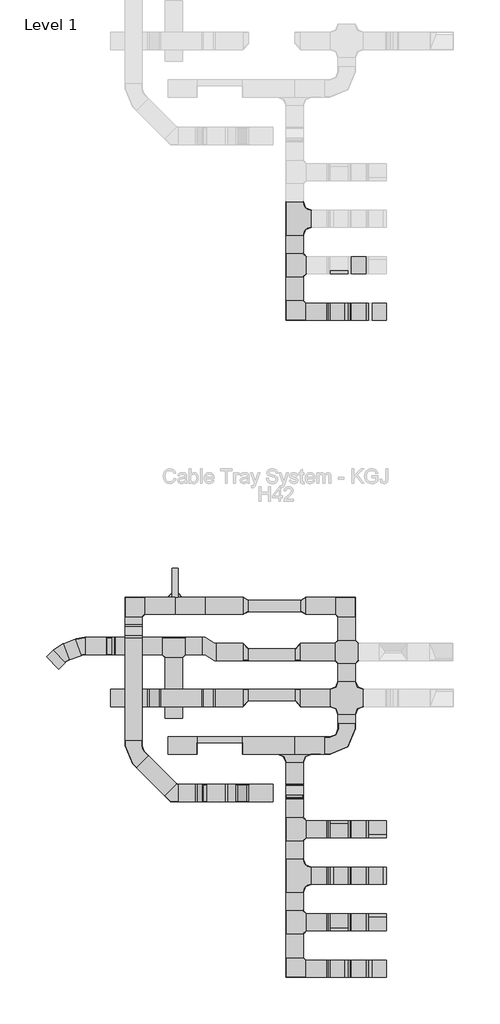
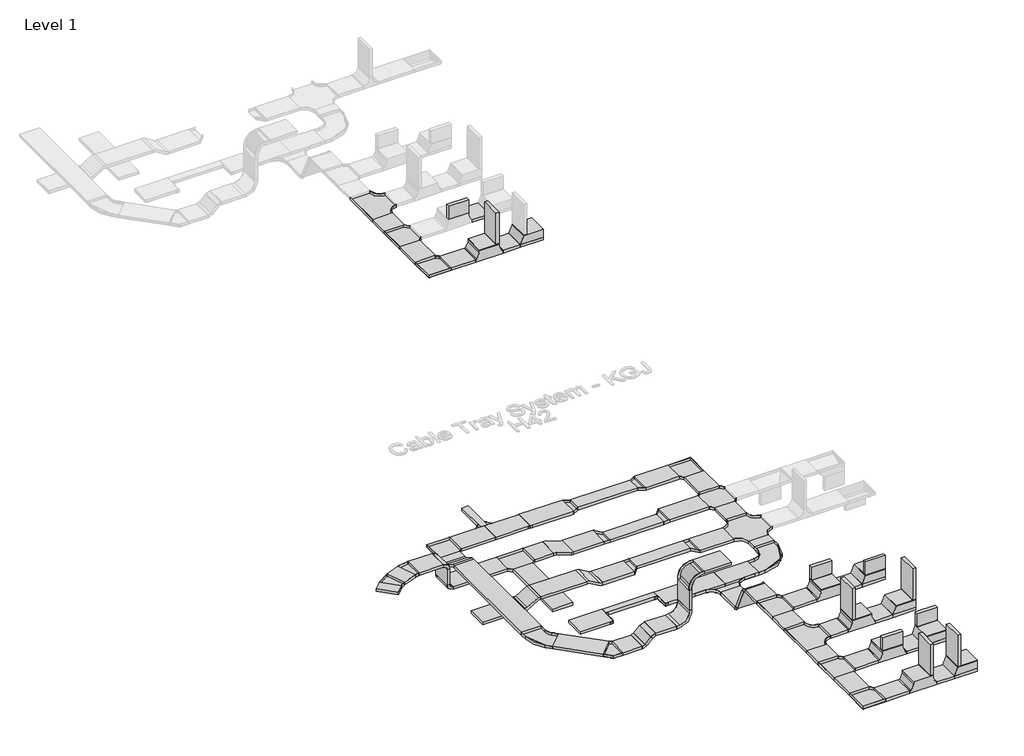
# One storey, part 1 of 32: 65 cable carrier segments, 51 cable carrier fittings.
"""IFC4 building model written with IfcOpenShell, lengths in millimetres."""

from ifc_helpers import new_model, si_unit, frame, origin, place, context, project, spatial, polyline, outline, extrude, transform, mapped, element, save
from components import cable_carrier_fitting_e5c8e40d, cable_carrier_fitting_efa56db2, cable_carrier_fitting_2b67af39, cable_carrier_fitting_94ef316f, cable_carrier_fitting_d4aa8912, cable_carrier_fitting_717dd42d, cable_carrier_fitting_b6ebce7b, cable_carrier_fitting_70c157f5, cable_carrier_fitting_f138ef00, cable_carrier_fitting_e93d4d17, cable_carrier_fitting_1724e2f5, cable_carrier_fitting_f62230c1, cable_carrier_fitting_ae8e9708, cable_carrier_fitting_2d1b2b1b, cable_carrier_fitting_6d558282, cable_carrier_fitting_b296faec, cable_carrier_fitting_47b1af77, cable_carrier_fitting_55953e98, cable_carrier_fitting_c1d9b0e5, cable_carrier_fitting_19ef2403, cable_carrier_fitting_0fee3a18, cable_carrier_fitting_93b13c26, cable_carrier_fitting_9011e538, cable_carrier_fitting_5d3ac796, cable_carrier_fitting_0e05e12f, cable_carrier_fitting_aa4403b1, cable_carrier_fitting_df0feb0d, cable_carrier_fitting_3ff81d9b, cable_carrier_fitting_7d5806c9, cable_carrier_fitting_881c8fdb, cable_carrier_fitting_302010ec, cable_carrier_fitting_0ce080ce, rkj200_h42_828cf9d7, rkj200_h42_37d9c611

model = new_model("IFC4")

# Units and contexts
model_context = context("Model", 3, world=origin())
ifc_project = project(units=[si_unit("LENGTHUNIT", "METRE", prefix="MILLI")], contexts=[model_context])

# Site, building, storey
site = spatial("IfcSite", under=ifc_project)
building = spatial("IfcBuilding", under=site)
storey = spatial("IfcBuildingStorey", under=building, Name="Level 1", Elevation=0.0)

# Cable carrier fittings
placement = place(None, origin())
cable_carrier_fitting_shape = cable_carrier_fitting_e5c8e40d(model_context)
element("IfcCableCarrierFitting", 1, ObjectType="BAKS_SUB_Corner connector : LRJ_H42", at=placement, inside=storey, context=model_context, shape_type="MappedRepresentation", body=[
    mapped(cable_carrier_fitting_shape, transform((-19375.1670538, 35330.8714214, -21.0), x_axis=(-1.0, 0.0, 0.0), y_axis=(0.0, -1.0, 0.0), z_axis=(0.0, 0.0, 1.0))),
])
element("IfcCableCarrierFitting", 2, ObjectType="BAKS_SUB_Corner connector : LRJ_H42", at=placement, inside=storey, context=model_context, shape_type="MappedRepresentation", body=[
    mapped(cable_carrier_fitting_shape, transform((-19275.1670538, 35330.8714214, -21.0), x_axis=(0.0, 1.0, 0.0), y_axis=(-1.0, 0.0, 0.0), z_axis=(0.0, 0.0, 1.0))),
])
cable_carrier_fitting_2_shape = cable_carrier_fitting_efa56db2(model_context)
element("IfcCableCarrierFitting", 3, ObjectType="BAKS_Horizontal bypass : OPZNJ_H42", at=placement, inside=storey, context=model_context, shape_type="MappedRepresentation", body=[
    mapped(cable_carrier_fitting_2_shape, transform((-18722.1670538, 34380.8714214, 0.0), x_axis=(-1.0, 0.0, 0.0), y_axis=(0.0, 1.0, 0.0), z_axis=(0.0, 0.0, -1.0))),
])
cable_carrier_fitting_3_shape = cable_carrier_fitting_2b67af39(model_context)
element("IfcCableCarrierFitting", 4, ObjectType="BAKS_Vertical bypass : OPNNJ_H42", at=placement, inside=storey, context=model_context, shape_type="MappedRepresentation", body=[
    mapped(cable_carrier_fitting_3_shape, transform((-19686.6670538, 33580.8714214, 100.0), x_axis=(-1.0, 0.0, 0.0), y_axis=(0.0, -1.0, 0.0), z_axis=(0.0, 0.0, 1.0))),
])
cable_carrier_fitting_4_shape = cable_carrier_fitting_94ef316f(model_context)
element("IfcCableCarrierFitting", 5, ObjectType="BAKS_Reducer : RK(S/L/P)L_H42", at=placement, inside=storey, context=model_context, shape_type="MappedRepresentation", body=[
    mapped(cable_carrier_fitting_4_shape, transform((-18143.1670538, 35180.8714214, 0.0), x_axis=(1.0, 0.0, 0.0), y_axis=(0.0, 1.0, 0.0), z_axis=(0.0, 0.0, 1.0))),
])
cable_carrier_fitting_5_shape = cable_carrier_fitting_d4aa8912(model_context)
element("IfcCableCarrierFitting", 6, ObjectType="BAKS_Reducer : RK(S/L/P)L_H42", at=placement, inside=storey, context=model_context, shape_type="MappedRepresentation", body=[
    mapped(cable_carrier_fitting_5_shape, transform((-17143.1670538, 35180.8714214, 0.0), x_axis=(1.0, 0.0, 0.0), y_axis=(0.0, 1.0, 0.0), z_axis=(0.0, 0.0, 1.0))),
])
cable_carrier_fitting_6_shape = cable_carrier_fitting_717dd42d(model_context)
element("IfcCableCarrierFitting", 7, ObjectType="BAKS_Horizontal bend : KKBL/KKMBL_H42", at=placement, inside=storey, context=model_context, shape_type="MappedRepresentation", body=[
    mapped(cable_carrier_fitting_6_shape, transform((-16343.1670538, 35180.8714214, 0.0), x_axis=(0.0, 1.0, 0.0), y_axis=(-1.0, 0.0, 0.0), z_axis=(0.0, 0.0, 1.0))),
])
element("IfcCableCarrierFitting", 8, ObjectType="BAKS_Horizontal bend : KKBL/KKMBL_H42", at=placement, inside=storey, context=model_context, shape_type="MappedRepresentation", body=[
    mapped(cable_carrier_fitting_6_shape, transform((-20043.1670538, 35180.8714214, 0.0), x_axis=(-1.0, 0.0, 0.0), y_axis=(0.0, -1.0, 0.0), z_axis=(0.0, 0.0, 1.0))),
])
element("IfcCableCarrierFitting", 9, ObjectType="BAKS_Horizontal bend : KKBL/KKMBL_H42", at=placement, inside=storey, context=model_context, shape_type="MappedRepresentation", body=[
    mapped(cable_carrier_fitting_6_shape, transform((-17246.1670538, 40282.0146558, 432.5277378), x_axis=(0.0, -1.0, 0.0), y_axis=(1.0, 0.0, 0.0), z_axis=(0.0, 0.0, 1.0))),
])
element("IfcCableCarrierFitting", 10, ObjectType="BAKS_Horizontal bend : KKBL/KKMBL_H42", at=placement, inside=storey, context=model_context, shape_type="MappedRepresentation", body=[
    mapped(cable_carrier_fitting_6_shape, transform((-17246.1670538, 28882.0146558, 432.5277378), x_axis=(0.0, -1.0, 0.0), y_axis=(1.0, 0.0, 0.0), z_axis=(0.0, 0.0, 1.0))),
])
cable_carrier_fitting_7_shape = cable_carrier_fitting_b6ebce7b(model_context)
element("IfcCableCarrierFitting", 11, ObjectType="BAKS_Horizontal tee : TKL_H42", at=placement, inside=storey, context=model_context, shape_type="MappedRepresentation", body=[
    mapped(cable_carrier_fitting_7_shape, transform((-19343.6670538, 34480.8714214, 0.0), x_axis=(1.0, 0.0, 0.0), y_axis=(0.0, 1.0, 0.0), z_axis=(0.0, 0.0, 1.0))),
])
element("IfcCableCarrierFitting", 12, ObjectType="BAKS_Horizontal tee : TKL_H42", at=placement, inside=storey, context=model_context, shape_type="MappedRepresentation", body=[
    mapped(cable_carrier_fitting_7_shape, transform((-17246.1670538, 41089.2974728, 432.5277378), x_axis=(0.0, 1.0, 0.0), y_axis=(-1.0, 0.0, 0.0), z_axis=(0.0, 0.0, 1.0))),
])
element("IfcCableCarrierFitting", 13, ObjectType="BAKS_Horizontal tee : TKL_H42", at=placement, inside=storey, context=model_context, shape_type="MappedRepresentation", body=[
    mapped(cable_carrier_fitting_7_shape, transform((-17246.1670538, 29689.2974728, 432.5277378), x_axis=(0.0, 1.0, 0.0), y_axis=(-1.0, 0.0, 0.0), z_axis=(0.0, 0.0, 1.0))),
])
element("IfcCableCarrierFitting", 14, ObjectType="BAKS_Horizontal tee : TKL_H42", at=placement, inside=storey, context=model_context, shape_type="MappedRepresentation", body=[
    mapped(cable_carrier_fitting_7_shape, transform((-17246.1670538, 31303.8631068, 432.5277378), x_axis=(0.0, 1.0, 0.0), y_axis=(-1.0, 0.0, 0.0), z_axis=(0.0, 0.0, 1.0))),
])
cable_carrier_fitting_8_shape = cable_carrier_fitting_70c157f5(model_context)
element("IfcCableCarrierFitting", 15, ObjectType="BAKS_Reducer : RK(S/L/P)L_H42", at=placement, inside=storey, context=model_context, shape_type="MappedRepresentation", body=[
    mapped(cable_carrier_fitting_8_shape, transform((-18143.1670538, 34380.8714214, 0.0), x_axis=(1.0, 0.0, 0.0), y_axis=(0.0, 1.0, 0.0), z_axis=(0.0, 0.0, 1.0))),
])
element("IfcCableCarrierFitting", 16, ObjectType="BAKS_Reducer : RK(S/L/P)L_H42", at=placement, inside=storey, context=model_context, shape_type="MappedRepresentation", body=[
    mapped(cable_carrier_fitting_8_shape, transform((-17143.1670538, 33580.8714214, 0.0), x_axis=(-1.0, 0.0, 0.0), y_axis=(0.0, -1.0, 0.0), z_axis=(0.0, 0.0, 1.0))),
])
cable_carrier_fitting_9_shape = cable_carrier_fitting_f138ef00(model_context)
element("IfcCableCarrierFitting", 17, ObjectType="BAKS_Reducer : RK(S/L/P)L_H42", at=placement, inside=storey, context=model_context, shape_type="MappedRepresentation", body=[
    mapped(cable_carrier_fitting_9_shape, transform((-17143.1670538, 34380.8714214, 0.0), x_axis=(-1.0, 0.0, 0.0), y_axis=(0.0, -1.0, 0.0), z_axis=(0.0, 0.0, 1.0))),
])
element("IfcCableCarrierFitting", 18, ObjectType="BAKS_Reducer : RK(S/L/P)L_H42", at=placement, inside=storey, context=model_context, shape_type="MappedRepresentation", body=[
    mapped(cable_carrier_fitting_9_shape, transform((-18143.1670538, 33580.8714214, 0.0), x_axis=(1.0, 0.0, 0.0), y_axis=(0.0, 1.0, 0.0), z_axis=(0.0, 0.0, 1.0))),
])
cable_carrier_fitting_10_shape = cable_carrier_fitting_e93d4d17(model_context)
element("IfcCableCarrierFitting", 19, ObjectType="BAKS_Plate connector : LPMU_H42", at=placement, inside=storey, context=model_context, shape_type="MappedRepresentation", body=[
    mapped(cable_carrier_fitting_10_shape, transform((-18803.1670538, 35180.8714214, 0.0), x_axis=(1.0, 0.0, 0.0), y_axis=(0.0, 1.0, 0.0), z_axis=(0.0, 0.0, 1.0))),
])
cable_carrier_fitting_11_shape = cable_carrier_fitting_1724e2f5(model_context)
element("IfcCableCarrierFitting", 20, ObjectType="BAKS_Vertical bypass : OPNNJ_H42", at=placement, inside=storey, context=model_context, shape_type="MappedRepresentation", body=[
    mapped(cable_carrier_fitting_11_shape, transform((-18743.6670538, 33580.8714214, 0.0), x_axis=(-1.0, 0.0, 0.0), y_axis=(0.0, -1.0, 0.0), z_axis=(0.0, 0.0, 1.0))),
])
element("IfcCableCarrierFitting", 21, ObjectType="BAKS_Vertical bypass : OPNNJ_H42", at=placement, inside=storey, context=model_context, shape_type="MappedRepresentation", body=[
    mapped(cable_carrier_fitting_11_shape, transform((-20043.1670538, 34739.3714214, 0.0), x_axis=(0.0, -1.0, 0.0), y_axis=(1.0, 0.0, 0.0), z_axis=(0.0, 0.0, 1.0))),
])
cable_carrier_fitting_12_shape = cable_carrier_fitting_f62230c1(model_context)
element("IfcCableCarrierFitting", 22, ObjectType="BAKS_Vertical bend LU : LUNJ/LUMNJ_H42", at=placement, inside=storey, context=model_context, shape_type="MappedRepresentation", body=[
    mapped(cable_carrier_fitting_12_shape, transform((-20443.6670538, 34480.8714214, 0.0), x_axis=(-1.0, 0.0, 0.0), y_axis=(0.0, 0.0, 1.0), z_axis=(0.0, 1.0, 0.0))),
])
element("IfcCableCarrierFitting", 23, ObjectType="BAKS_Vertical bend LU : LUNJ/LUMNJ_H42", at=placement, inside=storey, context=model_context, shape_type="MappedRepresentation", body=[
    mapped(cable_carrier_fitting_12_shape, transform((-20443.6670538, 34480.8714214, 400.0), x_axis=(0.0, 0.0, 1.0), y_axis=(-1.0, 0.0, 0.0), z_axis=(0.0, -1.0, 0.0))),
])
cable_carrier_fitting_13_shape = cable_carrier_fitting_ae8e9708(model_context)
element("IfcCableCarrierFitting", 24, ObjectType="BAKS_Horizontal bend : KKBL/KKMBL_H42", at=placement, inside=storey, context=model_context, shape_type="MappedRepresentation", body=[
    mapped(cable_carrier_fitting_13_shape, transform((-19343.6670538, 31931.3714214, 100.0), x_axis=(0.7071067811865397, -0.7071067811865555, 0.0), y_axis=(0.7071067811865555, 0.7071067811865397, 0.0), z_axis=(0.0, 0.0, 1.0))),
])
cable_carrier_fitting_14_shape = cable_carrier_fitting_2d1b2b1b(model_context)
element("IfcCableCarrierFitting", 25, ObjectType="BAKS_Vertical bend LU : LUNJ/LUMNJ_H42", at=placement, inside=storey, context=model_context, shape_type="MappedRepresentation", body=[
    mapped(cable_carrier_fitting_14_shape, transform((-18943.6670538, 31931.3714214, 100.0), x_axis=(1.0, 0.0, 0.0), y_axis=(0.0, 0.0, 1.0), z_axis=(0.0, -1.0, 0.0))),
])
element("IfcCableCarrierFitting", 26, ObjectType="BAKS_Vertical bend LU : LUNJ/LUMNJ_H42", at=placement, inside=storey, context=model_context, shape_type="MappedRepresentation", body=[
    mapped(cable_carrier_fitting_14_shape, transform((-18806.2659001, 31931.3714214, 237.4011537), x_axis=(0.7071067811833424, 0.0, 0.7071067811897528), y_axis=(0.7071067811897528, 0.0, -0.7071067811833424), z_axis=(0.0, 1.0, 0.0))),
])
cable_carrier_fitting_15_shape = cable_carrier_fitting_6d558282(model_context)
element("IfcCableCarrierFitting", 27, ObjectType="BAKS_Vertical bend adjustable : LLL/LLJ_H42", at=placement, inside=storey, context=model_context, shape_type="MappedRepresentation", body=[
    mapped(cable_carrier_fitting_15_shape, transform((-18246.2659001, 31931.3714214, 237.4011537), x_axis=(1.0, 0.0, 0.0), y_axis=(0.0, 0.0, 1.0), z_axis=(0.0, -1.0, 0.0))),
])
element("IfcCableCarrierFitting", 28, ObjectType="BAKS_Vertical bend adjustable : LLL/LLJ_H42", at=placement, inside=storey, context=model_context, shape_type="MappedRepresentation", body=[
    mapped(cable_carrier_fitting_15_shape, transform((-18246.2659001, 31931.3714214, 977.4011537), x_axis=(0.0, 0.0, 1.0), y_axis=(1.0, 0.0, 0.0), z_axis=(0.0, 1.0, 0.0))),
])
cable_carrier_fitting_16_shape = cable_carrier_fitting_b296faec(model_context)
element("IfcCableCarrierFitting", 29, ObjectType="BAKS_Horizontal addon tee : TKDJ_H42", at=placement, inside=storey, context=model_context, shape_type="MappedRepresentation", body=[
    mapped(cable_carrier_fitting_16_shape, transform((-17246.1670538, 32755.8714214, 0.0), x_axis=(1.0, 0.0, 0.0), y_axis=(0.0, 1.0, 0.0), z_axis=(0.0, 0.0, 1.0))),
])
cable_carrier_fitting_17_shape = cable_carrier_fitting_47b1af77(model_context)
element("IfcCableCarrierFitting", 30, ObjectType="BAKS_Articulated_connector : LGJ_H42", at=placement, inside=storey, context=model_context, shape_type="MappedRepresentation", body=[
    mapped(cable_carrier_fitting_17_shape, transform((-17246.1670538, 32058.7056523, 0.0), x_axis=(0.0, -1.0, 0.0), y_axis=(0.0, 0.0, 1.0), z_axis=(-1.0, 0.0, 0.0))),
])
element("IfcCableCarrierFitting", 31, ObjectType="BAKS_Articulated_connector : LGJ_H42", at=placement, inside=storey, context=model_context, shape_type="MappedRepresentation", body=[
    mapped(cable_carrier_fitting_17_shape, transform((-17246.1670538, 31857.0146558, 432.5277378), x_axis=(0.0, -0.42261826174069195, 0.9063077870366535), y_axis=(0.0, -0.9063077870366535, -0.42261826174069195), z_axis=(1.0, 0.0, 0.0))),
])
cable_carrier_fitting_18_shape = cable_carrier_fitting_55953e98(model_context)
element("IfcCableCarrierFitting", 32, ObjectType="BAKS_Horizontal bend radius : KKPJ/KKMPJ_H42", at=placement, inside=storey, context=model_context, shape_type="MappedRepresentation", body=[
    mapped(cable_carrier_fitting_18_shape, transform((-20043.1670538, 32630.8714214, 100.0), x_axis=(0.0, -1.0, 0.0), y_axis=(1.0, 0.0, 0.0), z_axis=(0.0, 0.0, 1.0))),
])
cable_carrier_fitting_19_shape = cable_carrier_fitting_c1d9b0e5(model_context)
element("IfcCableCarrierFitting", 33, ObjectType="BAKS_Horizontal bend radius : KKPJ/KKMPJ_H42", at=placement, inside=storey, context=model_context, shape_type="MappedRepresentation", body=[
    mapped(cable_carrier_fitting_19_shape, transform((-16343.1670538, 32755.8714214, 0.0), x_axis=(1.0, 0.0, 0.0), y_axis=(0.0, 1.0, 0.0), z_axis=(0.0, 0.0, 1.0))),
])
cable_carrier_fitting_20_shape = cable_carrier_fitting_19ef2403(model_context)
element("IfcCableCarrierFitting", 34, ObjectType="BAKS_Adjustable bend : KKRPJ_H42", at=placement, inside=storey, context=model_context, shape_type="MappedRepresentation", body=[
    mapped(cable_carrier_fitting_20_shape, transform((-21281.9563973, 34357.7441698, 400.0), x_axis=(-0.9396926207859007, -0.34202014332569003, 0.0), y_axis=(0.34202014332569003, -0.9396926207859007, 0.0), z_axis=(0.0, 0.0, 1.0))),
])
cable_carrier_fitting_21_shape = cable_carrier_fitting_0fee3a18(model_context)
element("IfcCableCarrierFitting", 35, ObjectType="BAKS_Adjustable bend : KKRPJ_H42", at=placement, inside=storey, context=model_context, shape_type="MappedRepresentation", body=[
    mapped(cable_carrier_fitting_21_shape, transform((-20943.6670538, 34480.8714214, 400.0), x_axis=(-1.0, 0.0, 0.0), y_axis=(0.0, -1.0, 0.0), z_axis=(0.0, 0.0, 1.0))),
])
cable_carrier_fitting_22_shape = cable_carrier_fitting_93b13c26(model_context)
element("IfcCableCarrierFitting", 36, ObjectType="BAKS_Horizontal tee radius : TKPJ_H42", at=placement, inside=storey, context=model_context, shape_type="MappedRepresentation", body=[
    mapped(cable_carrier_fitting_22_shape, transform((-17246.1670538, 41896.5802898, 432.5277378), x_axis=(0.0, 1.0, 0.0), y_axis=(-1.0, 0.0, 0.0), z_axis=(0.0, 0.0, 1.0))),
])
element("IfcCableCarrierFitting", 37, ObjectType="BAKS_Horizontal tee radius : TKPJ_H42", at=placement, inside=storey, context=model_context, shape_type="MappedRepresentation", body=[
    mapped(cable_carrier_fitting_22_shape, transform((-17246.1670538, 30496.5802898, 432.5277378), x_axis=(0.0, 1.0, 0.0), y_axis=(-1.0, 0.0, 0.0), z_axis=(0.0, 0.0, 1.0))),
])
cable_carrier_fitting_23_shape = cable_carrier_fitting_9011e538(model_context)
element("IfcCableCarrierFitting", 38, ObjectType="BAKS_Horizontal cross over : CZKL_H42", at=placement, inside=storey, context=model_context, shape_type="MappedRepresentation", body=[
    mapped(cable_carrier_fitting_23_shape, transform((-16343.1670538, 34380.8714214, 0.0), x_axis=(0.0, -1.0, 0.0), y_axis=(1.0, 0.0, 0.0), z_axis=(0.0, 0.0, 1.0))),
])
cable_carrier_fitting_24_shape = cable_carrier_fitting_5d3ac796(model_context)
element("IfcCableCarrierFitting", 39, ObjectType="BAKS_Horizontal cross over radius : CZKPJ_H42", at=placement, inside=storey, context=model_context, shape_type="MappedRepresentation", body=[
    mapped(cable_carrier_fitting_24_shape, transform((-16343.1670538, 33580.8714214, 0.0), x_axis=(0.0, -1.0, 0.0), y_axis=(1.0, 0.0, 0.0), z_axis=(0.0, 0.0, 1.0))),
])
cable_carrier_fitting_25_shape = cable_carrier_fitting_0e05e12f(model_context)
element("IfcCableCarrierFitting", 40, ObjectType="BAKS_Universal elbow : KRUMJ_H42", at=placement, inside=storey, context=model_context, shape_type="MappedRepresentation", body=[
    mapped(cable_carrier_fitting_25_shape, transform((-16006.1670538, 31303.8631068, 432.5277378), x_axis=(1.0, 0.0, 0.0), y_axis=(0.0, 1.0, 0.0), z_axis=(0.0, 0.0, 1.0))),
])
cable_carrier_fitting_26_shape = cable_carrier_fitting_aa4403b1(model_context)
element("IfcCableCarrierFitting", 41, ObjectType="BAKS_Universal elbow : KRUMJ_H42", at=placement, inside=storey, context=model_context, shape_type="MappedRepresentation", body=[
    mapped(cable_carrier_fitting_26_shape, transform((-16006.1670538, 29689.2974728, 432.5277378), x_axis=(1.0, 0.0, 0.0), y_axis=(0.0, 1.0, 0.0), z_axis=(0.0, 0.0, 1.0))),
])
cable_carrier_fitting_27_shape = cable_carrier_fitting_df0feb0d(model_context)
element("IfcCableCarrierFitting", 42, ObjectType="BAKS_Universal elbow : KRUMJ_H42", at=placement, inside=storey, context=model_context, shape_type="MappedRepresentation", body=[
    mapped(cable_carrier_fitting_27_shape, transform((-16006.1670538, 40282.0146558, 432.5277378), x_axis=(1.0, 0.0, 0.0), y_axis=(0.0, 1.0, 0.0), z_axis=(0.0, 0.0, 1.0))),
])
element("IfcCableCarrierFitting", 43, ObjectType="BAKS_Universal elbow : KRUMJ_H42", at=placement, inside=storey, context=model_context, shape_type="MappedRepresentation", body=[
    mapped(cable_carrier_fitting_27_shape, transform((-16006.1670538, 28882.0146558, 432.5277378), x_axis=(1.0, 0.0, 0.0), y_axis=(0.0, 1.0, 0.0), z_axis=(0.0, 0.0, 1.0))),
])
cable_carrier_fitting_28_shape = cable_carrier_fitting_3ff81d9b(model_context)
element("IfcCableCarrierFitting", 44, ObjectType="BAKS_Universal tee : TRUNJ_H42", at=placement, inside=storey, context=model_context, shape_type="MappedRepresentation", body=[
    mapped(cable_carrier_fitting_28_shape, transform((-16473.5199976, 31303.8631068, 432.5277378), x_axis=(-1.0, 0.0, 0.0), y_axis=(0.0, -1.0, 0.0), z_axis=(0.0, 0.0, 1.0))),
])
cable_carrier_fitting_29_shape = cable_carrier_fitting_7d5806c9(model_context)
element("IfcCableCarrierFitting", 45, ObjectType="BAKS_Universal tee : TRUNJ_H42", at=placement, inside=storey, context=model_context, shape_type="MappedRepresentation", body=[
    mapped(cable_carrier_fitting_29_shape, transform((-16473.5199976, 29689.2974728, 432.5277378), x_axis=(-1.0, 0.0, 0.0), y_axis=(0.0, -1.0, 0.0), z_axis=(0.0, 0.0, 1.0))),
])
cable_carrier_fitting_30_shape = cable_carrier_fitting_881c8fdb(model_context)
element("IfcCableCarrierFitting", 46, ObjectType="BAKS_Universal elbow : KRUMJ_H42", at=placement, inside=storey, context=model_context, shape_type="MappedRepresentation", body=[
    mapped(cable_carrier_fitting_30_shape, transform((-16006.1670538, 30496.5802898, 432.5277378), x_axis=(1.0, 0.0, 0.0), y_axis=(0.0, 1.0, 0.0), z_axis=(0.0, 0.0, 1.0))),
])
cable_carrier_fitting_31_shape = cable_carrier_fitting_302010ec(model_context)
element("IfcCableCarrierFitting", 47, ObjectType="BAKS_Universal tee : TRUNJ_H42", at=placement, inside=storey, context=model_context, shape_type="MappedRepresentation", body=[
    mapped(cable_carrier_fitting_31_shape, transform((-16473.5199976, 30496.5802898, 432.5277378), x_axis=(-1.0, 0.0, 0.0), y_axis=(0.0, -1.0, 0.0), z_axis=(0.0, 0.0, 1.0))),
])
cable_carrier_fitting_32_shape = cable_carrier_fitting_0ce080ce(model_context)
element("IfcCableCarrierFitting", 48, ObjectType="BAKS_Universal tee : TRUNJ_H42", at=placement, inside=storey, context=model_context, shape_type="MappedRepresentation", body=[
    mapped(cable_carrier_fitting_32_shape, transform((-16473.5199976, 40282.0146558, 432.5277378), x_axis=(-1.0, 0.0, 0.0), y_axis=(0.0, -1.0, 0.0), z_axis=(0.0, 0.0, 1.0))),
])
element("IfcCableCarrierFitting", 49, ObjectType="BAKS_Universal tee : TRUNJ_H42", at=placement, inside=storey, context=model_context, shape_type="MappedRepresentation", body=[
    mapped(cable_carrier_fitting_32_shape, transform((-16473.5199976, 28882.0146558, 432.5277378), x_axis=(-1.0, 0.0, 0.0), y_axis=(0.0, -1.0, 0.0), z_axis=(0.0, 0.0, 1.0))),
])
rkj200_h42_shape = rkj200_h42_828cf9d7(model_context)
element("IfcCableCarrierFitting", 50, ObjectType="BAKS_Angle reducer : RKJ200_H42", at=placement, inside=storey, context=model_context, shape_type="MappedRepresentation", body=[
    mapped(rkj200_h42_shape, transform((-18153.1670538, 32755.8714214, 0.0), x_axis=(-1.0, 0.0, 0.0), y_axis=(0.0, -1.0, 0.0), z_axis=(0.0, 0.0, 1.0))),
])
rkj200_h42_2_shape = rkj200_h42_37d9c611(model_context)
element("IfcCableCarrierFitting", 51, ObjectType="BAKS_Angle reducer : RKJ200_H42", at=placement, inside=storey, context=model_context, shape_type="MappedRepresentation", body=[
    mapped(rkj200_h42_2_shape, transform((-18943.1670538, 32755.8714214, 0.0), x_axis=(1.0, 0.0, 0.0), y_axis=(0.0, 1.0, 0.0), z_axis=(0.0, 0.0, 1.0))),
])

# Cable carrier segments
element("IfcCableCarrierSegment", 52, ObjectType="BAKS - Cable tray H42 (KGJ)", at=placement, inside=storey, context=model_context, shape_type="SweptSolid", body=[
    extrude(outline(polyline([(-18802.1670538, 35030.8714214), (-18802.1670538, 35330.8714214), (-18143.1670538, 35330.8714214), (-18143.1670538, 35030.8714214), (-18802.1670538, 35030.8714214)])), frame((0.0, 0.0, -21.0), z_axis=(0.0, 0.0, 1.0), x_axis=(1.0, 0.0, 0.0)), (0.0, 0.0, 1.0), 42.0),
])
element("IfcCableCarrierSegment", 53, ObjectType="BAKS - Cable tray H42 (KGJ)", at=placement, inside=storey, context=model_context, shape_type="SweptSolid", body=[
    extrude(outline(polyline([(-18048.1670538, 35080.8714214), (-18048.1670538, 35280.8714214), (-17143.1670538, 35280.8714214), (-17143.1670538, 35080.8714214), (-18048.1670538, 35080.8714214)])), frame((0.0, 0.0, -21.0), z_axis=(0.0, 0.0, 1.0), x_axis=(1.0, 0.0, 0.0)), (0.0, 0.0, 1.0), 42.0),
])
element("IfcCableCarrierSegment", 54, ObjectType="BAKS - Cable tray H42 (KGJ)", at=placement, inside=storey, context=model_context, shape_type="SweptSolid", body=[
    extrude(outline(polyline([(-17048.1670538, 35030.8714214), (-17048.1670538, 35330.8714214), (-16539.1670538, 35330.8714214), (-16539.1670538, 35030.8714214), (-17048.1670538, 35030.8714214)])), frame((0.0, 0.0, -21.0), z_axis=(0.0, 0.0, 1.0), x_axis=(1.0, 0.0, 0.0)), (0.0, 0.0, 1.0), 42.0),
])
element("IfcCableCarrierSegment", 55, ObjectType="BAKS - Cable tray H42 (KGJ)", at=placement, inside=storey, context=model_context, shape_type="SweptSolid", body=[
    extrude(outline(polyline([(-16493.1670538, 34984.8714214), (-16193.1670538, 34984.8714214), (-16193.1670538, 34585.8714214), (-16493.1670538, 34585.8714214), (-16493.1670538, 34984.8714214)])), frame((0.0, 0.0, -21.0), z_axis=(0.0, 0.0, 1.0), x_axis=(1.0, 0.0, 0.0)), (0.0, 0.0, 1.0), 42.0),
])
element("IfcCableCarrierSegment", 56, ObjectType="BAKS - Cable tray H42 (KGJ)", at=placement, inside=storey, context=model_context, shape_type="SweptSolid", body=[
    extrude(outline(polyline([(-16493.1670538, 34175.8714214), (-16193.1670538, 34175.8714214), (-16193.1670538, 33871.8714214), (-16493.1670538, 33871.8714214), (-16493.1670538, 34175.8714214)])), frame((0.0, 0.0, -21.0), z_axis=(0.0, 0.0, 1.0), x_axis=(1.0, 0.0, 0.0)), (0.0, 0.0, 1.0), 42.0),
])
element("IfcCableCarrierSegment", 57, ObjectType="BAKS - Cable tray H42 (KGJ)", at=placement, inside=storey, context=model_context, shape_type="SweptSolid", body=[
    extrude(outline(polyline([(-17238.1670538, 34430.8714214), (-17238.1670538, 34230.8714214), (-18048.1670538, 34230.8714214), (-18048.1670538, 34430.8714214), (-17238.1670538, 34430.8714214)])), frame((0.0, 0.0, -21.0), z_axis=(0.0, 0.0, 1.0), x_axis=(1.0, 0.0, 0.0)), (0.0, 0.0, 1.0), 42.0),
])
element("IfcCableCarrierSegment", 58, ObjectType="BAKS - Cable tray H42 (KGJ)", at=placement, inside=storey, context=model_context, shape_type="SweptSolid", body=[
    extrude(outline(polyline([(-18600.6670538, 34230.8714214), (-18600.6670538, 34530.8714214), (-18143.1670538, 34530.8714214), (-18143.1670538, 34230.8714214), (-18600.6670538, 34230.8714214)])), frame((0.0, 0.0, -21.0), z_axis=(0.0, 0.0, 1.0), x_axis=(1.0, 0.0, 0.0)), (0.0, 0.0, 1.0), 42.0),
])
element("IfcCableCarrierSegment", 59, ObjectType="BAKS - Cable tray H42 (KGJ)", at=placement, inside=storey, context=model_context, shape_type="SweptSolid", body=[
    extrude(outline(polyline([(-16548.1670538, 34530.8714214), (-16548.1670538, 34230.8714214), (-17143.1670538, 34230.8714214), (-17143.1670538, 34530.8714214), (-16548.1670538, 34530.8714214)])), frame((0.0, 0.0, -21.0), z_axis=(0.0, 0.0, 1.0), x_axis=(1.0, 0.0, 0.0)), (0.0, 0.0, 1.0), 42.0),
])
element("IfcCableCarrierSegment", 60, ObjectType="BAKS - Cable tray H42 (KGJ)", at=placement, inside=storey, context=model_context, shape_type="SweptSolid", body=[
    extrude(outline(polyline([(-17238.1670538, 33730.8714214), (-17238.1670538, 33530.8714214), (-18048.1670538, 33530.8714214), (-18048.1670538, 33730.8714214), (-17238.1670538, 33730.8714214)])), frame((0.0, 0.0, -21.0), z_axis=(0.0, 0.0, 1.0), x_axis=(1.0, 0.0, 0.0)), (0.0, 0.0, 1.0), 42.0),
])
element("IfcCableCarrierSegment", 61, ObjectType="BAKS - Cable tray H42 (KGJ)", at=placement, inside=storey, context=model_context, shape_type="SweptSolid", body=[
    extrude(outline(polyline([(-18622.1670538, 33430.8714214), (-18622.1670538, 33730.8714214), (-18143.1670538, 33730.8714214), (-18143.1670538, 33430.8714214), (-18622.1670538, 33430.8714214)])), frame((0.0, 0.0, -21.0), z_axis=(0.0, 0.0, 1.0), x_axis=(1.0, 0.0, 0.0)), (0.0, 0.0, 1.0), 42.0),
])
element("IfcCableCarrierSegment", 62, ObjectType="BAKS - Cable tray H42 (KGJ)", at=placement, inside=storey, context=model_context, shape_type="SweptSolid", body=[
    extrude(outline(polyline([(-16634.1670538, 33730.8714214), (-16634.1670538, 33430.8714214), (-17143.1670538, 33430.8714214), (-17143.1670538, 33730.8714214), (-16634.1670538, 33730.8714214)])), frame((0.0, 0.0, -21.0), z_axis=(0.0, 0.0, 1.0), x_axis=(1.0, 0.0, 0.0)), (0.0, 0.0, 1.0), 42.0),
])
element("IfcCableCarrierSegment", 63, ObjectType="BAKS - Cable tray H42 (KGJ)", at=placement, inside=storey, context=model_context, shape_type="SweptSolid", body=[
    extrude(outline(polyline([(-19548.6670538, 34630.8714214), (-19548.6670538, 34330.8714214), (-20367.6670538, 34330.8714214), (-20367.6670538, 34630.8714214), (-19548.6670538, 34630.8714214)])), frame((0.0, 0.0, -21.0), z_axis=(0.0, 0.0, 1.0), x_axis=(1.0, 0.0, 0.0)), (0.0, 0.0, 1.0), 42.0),
])
element("IfcCableCarrierSegment", 64, ObjectType="BAKS - Cable tray H42 (KGJ)", at=placement, inside=storey, context=model_context, shape_type="SweptSolid", body=[
    extrude(outline(polyline([(-18865.1670538, 33730.8714214), (-18865.1670538, 33430.8714214), (-19565.1670538, 33430.8714214), (-19565.1670538, 33730.8714214), (-18865.1670538, 33730.8714214)])), frame((0.0, 0.0, 79.0), z_axis=(0.0, 0.0, 1.0), x_axis=(1.0, 0.0, 0.0)), (0.0, 0.0, 1.0), 42.0),
])
element("IfcCableCarrierSegment", 65, ObjectType="BAKS - Cable tray H42 (KGJ)", at=placement, inside=storey, context=model_context, shape_type="SweptSolid", body=[
    extrude(outline(polyline([(-20193.1670538, 34984.8714214), (-19893.1670538, 34984.8714214), (-19893.1670538, 34860.8714214), (-20193.1670538, 34860.8714214), (-20193.1670538, 34984.8714214)])), frame((0.0, 0.0, -21.0), z_axis=(0.0, 0.0, 1.0), x_axis=(1.0, 0.0, 0.0)), (0.0, 0.0, 1.0), 42.0),
])
element("IfcCableCarrierSegment", 66, ObjectType="BAKS - Cable tray H42 (KGJ)", at=placement, inside=storey, context=model_context, shape_type="SweptSolid", body=[
    extrude(outline(polyline([(-19493.6670538, 34275.8714214), (-19193.6670538, 34275.8714214), (-19193.6670538, 33230.8714214), (-19493.6670538, 33230.8714214), (-19493.6670538, 34275.8714214)])), frame((0.0, 0.0, -21.0), z_axis=(0.0, 0.0, 1.0), x_axis=(1.0, 0.0, 0.0)), (0.0, 0.0, 1.0), 42.0),
])
element("IfcCableCarrierSegment", 67, ObjectType="BAKS - Cable tray H42 (KGJ)", at=placement, inside=storey, context=model_context, shape_type="SweptSolid", body=[
    extrude(outline(polyline([(-18843.6670538, 34630.8714214), (-18843.6670538, 34330.8714214), (-19138.6670538, 34330.8714214), (-19138.6670538, 34630.8714214), (-18843.6670538, 34630.8714214)])), frame((0.0, 0.0, -21.0), z_axis=(0.0, 0.0, 1.0), x_axis=(1.0, 0.0, 0.0)), (0.0, 0.0, 1.0), 42.0),
])
element("IfcCableCarrierSegment", 68, ObjectType="BAKS - Cable tray H42 (KGJ)", at=placement, inside=storey, context=model_context, shape_type="SweptSolid", body=[
    extrude(outline(polyline([(-19808.1670538, 33730.8714214), (-19808.1670538, 33430.8714214), (-20443.6670538, 33430.8714214), (-20443.6670538, 33730.8714214), (-19808.1670538, 33730.8714214)])), frame((0.0, 0.0, -21.0), z_axis=(0.0, 0.0, 1.0), x_axis=(1.0, 0.0, 0.0)), (0.0, 0.0, 1.0), 42.0),
])
element("IfcCableCarrierSegment", 69, ObjectType="BAKS - Cable tray H42 (KGJ)", at=placement, inside=storey, context=model_context, shape_type="SweptSolid", body=[
    extrude(outline(polyline([(-20877.5322294, 34330.8714214), (-20877.5322294, 34630.8714214), (-20519.6670538, 34630.8714214), (-20519.6670538, 34330.8714214), (-20877.5322294, 34330.8714214)])), frame((0.0, 0.0, 379.0), z_axis=(0.0, 0.0, 1.0), x_axis=(1.0, 0.0, 0.0)), (0.0, 0.0, 1.0), 42.0),
])
element("IfcCableCarrierSegment", 70, ObjectType="BAKS - Cable tray H42 (KGJ)", at=placement, inside=storey, context=model_context, shape_type="SweptSolid", body=[
    extrude(outline(polyline([(-20464.6670538, 34630.8714214), (-20422.6670538, 34630.8714214), (-20422.6670538, 34330.8714214), (-20464.6670538, 34330.8714214), (-20464.6670538, 34630.8714214)])), frame((0.0, 0.0, 76.0), z_axis=(0.0, 0.0, 1.0), x_axis=(1.0, 0.0, 0.0)), (0.0, 0.0, 1.0), 248.0),
])
element("IfcCableCarrierSegment", 71, ObjectType="BAKS - Cable tray H42 (KGJ)", at=placement, inside=storey, context=model_context, shape_type="SweptSolid", body=[
    extrude(outline(polyline([(-19893.1670538, 32850.9933545), (-20193.1670538, 32850.9933545), (-20193.1670538, 34617.8714214), (-19893.1670538, 34617.8714214), (-19893.1670538, 32850.9933545)])), frame((0.0, 0.0, 79.0), z_axis=(0.0, 0.0, 1.0), x_axis=(1.0, 0.0, 0.0)), (0.0, 0.0, 1.0), 42.0),
])
element("IfcCableCarrierSegment", 72, ObjectType="BAKS - Cable tray H42 (KGJ)", at=placement, inside=storey, context=model_context, shape_type="SweptSolid", body=[
    extrude(outline(polyline([(-19993.5833594, 32369.1556926), (-19781.451325, 32581.287727), (-19295.422321, 32095.258723), (-19507.5543554, 31883.1266887), (-19993.5833594, 32369.1556926)])), frame((0.0, 0.0, 79.0), z_axis=(0.0, 0.0, 1.0), x_axis=(1.0, 0.0, 0.0)), (0.0, 0.0, 1.0), 42.0),
])
element("IfcCableCarrierSegment", 73, ObjectType="BAKS - Cable tray H42 (KGJ)", at=placement, inside=storey, context=model_context, shape_type="SweptSolid", body=[
    extrude(outline(polyline([(-19261.8954091, 31781.3714214), (-19261.8954091, 32081.3714214), (-18978.0762167, 32081.3714214), (-18978.0762167, 31781.3714214), (-19261.8954091, 31781.3714214)])), frame((0.0, 0.0, 79.0), z_axis=(0.0, 0.0, 1.0), x_axis=(1.0, 0.0, 0.0)), (0.0, 0.0, 1.0), 42.0),
])
element("IfcCableCarrierSegment", 74, ObjectType="BAKS - Cable tray H42 (KGJ)", at=placement, inside=storey, context=model_context, shape_type="SweptSolid", body=[
    extrude(outline(polyline([(21.0, 1.4628667), (-21.0, 1.4628667), (-21.0, 301.4628667), (21.0, 301.4628667), (21.0, 1.4628667)])), frame((-18919.3361013, 31779.9085547, 124.3309524), z_axis=(0.7071067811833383, 0.0, 0.7071067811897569), x_axis=(0.7071067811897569, 0.0, -0.7071067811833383)), (0.0, 0.0, 1.0), 125.4962492),
])
element("IfcCableCarrierSegment", 75, ObjectType="BAKS - Cable tray H42 (KGJ)", at=placement, inside=storey, context=model_context, shape_type="SweptSolid", body=[
    extrude(outline(polyline([(-18771.8567371, 31781.3714214), (-18771.8567371, 32081.3714214), (-18457.2659001, 32081.3714214), (-18457.2659001, 31781.3714214), (-18771.8567371, 31781.3714214)])), frame((0.0, 0.0, 216.4011537), z_axis=(0.0, 0.0, 1.0), x_axis=(1.0, 0.0, 0.0)), (0.0, 0.0, 1.0), 42.0),
])
element("IfcCableCarrierSegment", 76, ObjectType="BAKS - Cable tray H42 (KGJ)", at=placement, inside=storey, context=model_context, shape_type="SweptSolid", body=[
    extrude(outline(polyline([(-18225.2659001, 31781.3714214), (-18267.2659001, 31781.3714214), (-18267.2659001, 32081.3714214), (-18225.2659001, 32081.3714214), (-18225.2659001, 31781.3714214)])), frame((0.0, 0.0, 448.4011537), z_axis=(0.0, 0.0, 1.0), x_axis=(1.0, 0.0, 0.0)), (0.0, 0.0, 1.0), 318.0),
])
element("IfcCableCarrierSegment", 77, ObjectType="BAKS - Cable tray H42 (KGJ)", at=placement, inside=storey, context=model_context, shape_type="SweptSolid", body=[
    extrude(outline(polyline([(-18035.2659001, 31781.3714214), (-18035.2659001, 32081.3714214), (-17626.2659001, 32081.3714214), (-17626.2659001, 31781.3714214), (-18035.2659001, 31781.3714214)])), frame((0.0, 0.0, 956.4011537), z_axis=(0.0, 0.0, 1.0), x_axis=(1.0, 0.0, 0.0)), (0.0, 0.0, 1.0), 42.0),
])
element("IfcCableCarrierSegment", 78, ObjectType="BAKS - Cable tray H42 (KGJ)", at=placement, inside=storey, context=model_context, shape_type="SweptSolid", body=[
    extrude(outline(polyline([(-17246.7091451, 32905.8714214), (-17246.7091451, 32605.8714214), (-18153.1670538, 32605.8714214), (-18153.1670538, 32905.8714214), (-17246.7091451, 32905.8714214)])), frame((0.0, 0.0, -21.0), z_axis=(0.0, 0.0, 1.0), x_axis=(1.0, 0.0, 0.0)), (0.0, 0.0, 1.0), 42.0),
])
element("IfcCableCarrierSegment", 79, ObjectType="BAKS - Cable tray H42 (KGJ)", at=placement, inside=storey, context=model_context, shape_type="SweptSolid", body=[
    extrude(outline(polyline([(-18938.1670538, 32805.8714214), (-18938.1670538, 32905.8714214), (-18158.1670538, 32905.8714214), (-18158.1670538, 32805.8714214), (-18938.1670538, 32805.8714214)])), frame((0.0, 0.0, -21.0), z_axis=(0.0, 0.0, 1.0), x_axis=(1.0, 0.0, 0.0)), (0.0, 0.0, 1.0), 42.0),
])
element("IfcCableCarrierSegment", 80, ObjectType="BAKS - Cable tray H42 (KGJ)", at=placement, inside=storey, context=model_context, shape_type="SweptSolid", body=[
    extrude(outline(polyline([(-16193.1670538, 33145.8714214), (-16493.1670538, 33145.8714214), (-16493.1670538, 33289.8714214), (-16193.1670538, 33289.8714214), (-16193.1670538, 33145.8714214)])), frame((0.0, 0.0, -21.0), z_axis=(0.0, 0.0, 1.0), x_axis=(1.0, 0.0, 0.0)), (0.0, 0.0, 1.0), 42.0),
])
element("IfcCableCarrierSegment", 81, ObjectType="BAKS - Cable tray H42 (KGJ)", at=placement, inside=storey, context=model_context, shape_type="SweptSolid", body=[
    extrude(outline(polyline([(-19443.1670538, 32605.8714214), (-19443.1670538, 32905.8714214), (-18943.1670538, 32905.8714214), (-18943.1670538, 32605.8714214), (-19443.1670538, 32605.8714214)])), frame((0.0, 0.0, -21.0), z_axis=(0.0, 0.0, 1.0), x_axis=(1.0, 0.0, 0.0)), (0.0, 0.0, 1.0), 42.0),
])
element("IfcCableCarrierSegment", 82, ObjectType="BAKS - Cable tray H42 (KGJ)", at=placement, inside=storey, context=model_context, shape_type="SweptSolid", body=[
    extrude(outline(polyline([(-16733.1670538, 32905.8714214), (-16733.1670538, 32605.8714214), (-17245.6249624, 32605.8714214), (-17245.6249624, 32905.8714214), (-16733.1670538, 32905.8714214)])), frame((0.0, 0.0, -21.0), z_axis=(0.0, 0.0, 1.0), x_axis=(1.0, 0.0, 0.0)), (0.0, 0.0, 1.0), 42.0),
])
element("IfcCableCarrierSegment", 83, ObjectType="BAKS - Cable tray H42 (KGJ)", at=placement, inside=storey, context=model_context, shape_type="SweptSolid", body=[
    extrude(outline(polyline([(-17396.1670538, 32459.8714214), (-17096.1670538, 32459.8714214), (-17096.1670538, 32094.8255329), (-17396.1670538, 32094.8255329), (-17396.1670538, 32459.8714214)])), frame((0.0, 0.0, -21.0), z_axis=(0.0, 0.0, 1.0), x_axis=(1.0, 0.0, 0.0)), (0.0, 0.0, 1.0), 42.0),
])
element("IfcCableCarrierSegment", 84, ObjectType="BAKS - Cable tray H42 (KGJ)", at=placement, inside=storey, context=model_context, shape_type="SweptSolid", body=[
    extrude(outline(polyline([(-150.0, 130.4628667), (-150.0, 172.4628667), (150.0, 172.4628667), (150.0, 130.4628667), (-150.0, 130.4628667)])), frame((-17246.1670538, 31906.1687555, -31.2752443), z_axis=(0.0, -0.4226182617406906, 0.9063077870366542), x_axis=(1.0, 0.0, 0.0)), (0.0, 0.0, 1.0), 405.0017938),
])
element("IfcCableCarrierSegment", 85, ObjectType="BAKS - Cable tray H42 (KGJ)", at=placement, inside=storey, context=model_context, shape_type="SweptSolid", body=[
    extrude(outline(polyline([(-21057.1164817, 34599.2058724), (-20954.5104387, 34317.2980862), (-21156.1437833, 34243.9095505), (-21258.7498263, 34525.8173368), (-21057.1164817, 34599.2058724)])), frame((0.0, 0.0, 379.0), z_axis=(0.0, 0.0, 1.0), x_axis=(1.0, 0.0, 0.0)), (0.0, 0.0, 1.0), 42.0),
])
element("IfcCableCarrierSegment", 86, ObjectType="BAKS - Cable tray H42 (KGJ)", at=placement, inside=storey, context=model_context, shape_type="SweptSolid", body=[
    extrude(outline(polyline([(-21444.0899379, 34407.7426635), (-21231.9579036, 34195.6106291), (-21344.3432656, 34083.2252671), (-21556.4753, 34295.3573015), (-21444.0899379, 34407.7426635)])), frame((0.0, 0.0, 379.0), z_axis=(0.0, 0.0, 1.0), x_axis=(1.0, 0.0, 0.0)), (0.0, 0.0, 1.0), 42.0),
])
element("IfcCableCarrierSegment", 87, ObjectType="BAKS - Cable tray H42 (KGJ)", at=placement, inside=storey, context=model_context, shape_type="SweptSolid", body=[
    extrude(outline(polyline([(-19325.6670538, 35330.8714214), (-19325.6670538, 35030.8714214), (-19847.1670538, 35030.8714214), (-19847.1670538, 35330.8714214), (-19325.6670538, 35330.8714214)])), frame((0.0, 0.0, -21.0), z_axis=(0.0, 0.0, 1.0), x_axis=(1.0, 0.0, 0.0)), (0.0, 0.0, 1.0), 42.0),
])
element("IfcCableCarrierSegment", 88, ObjectType="BAKS - Cable tray H42 (KGJ)", at=placement, inside=storey, context=model_context, shape_type="SweptSolid", body=[
    extrude(outline(polyline([(-19275.1670538, 35330.8714214), (-19375.1670538, 35330.8714214), (-19375.1670538, 35830.8714214), (-19275.1670538, 35830.8714214), (-19275.1670538, 35330.8714214)])), frame((0.0, 0.0, -21.0), z_axis=(0.0, 0.0, 1.0), x_axis=(1.0, 0.0, 0.0)), (0.0, 0.0, 1.0), 42.0),
])
element("IfcCableCarrierSegment", 89, ObjectType="BAKS - Cable tray H42 (KGJ)", at=placement, inside=storey, context=model_context, shape_type="SweptSolid", body=[
    extrude(outline(polyline([(-18803.1670538, 35330.8714214), (-18803.1670538, 35030.8714214), (-19324.6670538, 35030.8714214), (-19324.6670538, 35330.8714214), (-18803.1670538, 35330.8714214)])), frame((0.0, 0.0, -21.0), z_axis=(0.0, 0.0, 1.0), x_axis=(1.0, 0.0, 0.0)), (0.0, 0.0, 1.0), 42.0),
])
element("IfcCableCarrierSegment", 90, ObjectType="BAKS - Cable tray H42 (KCL)", at=placement, inside=storey, context=model_context, shape_type="SweptSolid", body=[
    extrude(outline(polyline([(-17396.1670538, 40884.2974728), (-17096.1670538, 40884.2974728), (-17096.1670538, 40478.0146558), (-17396.1670538, 40478.0146558), (-17396.1670538, 40884.2974728)])), frame((0.0, 0.0, 411.5277378), z_axis=(0.0, 0.0, 1.0), x_axis=(1.0, 0.0, 0.0)), (0.0, 0.0, 1.0), 42.0),
])
element("IfcCableCarrierSegment", 91, ObjectType="BAKS - Cable tray H42 (KCL)", at=placement, inside=storey, context=model_context, shape_type="SweptSolid", body=[
    extrude(outline(polyline([(-16263.5199976, 40132.0146558), (-16263.5199976, 40432.0146558), (-16006.1670538, 40432.0146558), (-16006.1670538, 40132.0146558), (-16263.5199976, 40132.0146558)])), frame((0.0, 0.0, 411.5277378), z_axis=(0.0, 0.0, 1.0), x_axis=(1.0, 0.0, 0.0)), (0.0, 0.0, 1.0), 42.0),
])
element("IfcCableCarrierSegment", 92, ObjectType="BAKS - Cable tray H42 (KCL)", at=placement, inside=storey, context=model_context, shape_type="SweptSolid", body=[
    extrude(outline(polyline([(-16263.5199976, 40939.2974728), (-16263.5199976, 41239.2974728), (-16006.1670538, 41239.2974728), (-16006.1670538, 40939.2974728), (-16263.5199976, 40939.2974728)])), frame((0.0, 0.0, 411.5277378), z_axis=(0.0, 0.0, 1.0), x_axis=(1.0, 0.0, 0.0)), (0.0, 0.0, 1.0), 42.0),
])
element("IfcCableCarrierSegment", 93, ObjectType="BAKS - Cable tray H42 (KCL)", at=placement, inside=storey, context=model_context, shape_type="SweptSolid", body=[
    extrude(outline(polyline([(-17396.1670538, 41601.5802898), (-17096.1670538, 41601.5802898), (-17096.1670538, 41294.2974728), (-17396.1670538, 41294.2974728), (-17396.1670538, 41601.5802898)])), frame((0.0, 0.0, 411.5277378), z_axis=(0.0, 0.0, 1.0), x_axis=(1.0, 0.0, 0.0)), (0.0, 0.0, 1.0), 42.0),
])
element("IfcCableCarrierSegment", 94, ObjectType="BAKS - Cable tray H42 (KCL)", at=placement, inside=storey, context=model_context, shape_type="SweptSolid", body=[
    extrude(outline(polyline([(-17050.1670538, 40132.0146558), (-17050.1670538, 40432.0146558), (-16683.5199976, 40432.0146558), (-16683.5199976, 40132.0146558), (-17050.1670538, 40132.0146558)])), frame((0.0, 0.0, 411.5277378), z_axis=(0.0, 0.0, 1.0), x_axis=(1.0, 0.0, 0.0)), (0.0, 0.0, 1.0), 42.0),
])
element("IfcCableCarrierSegment", 95, ObjectType="BAKS - Cable tray H42 (KCL)", at=placement, inside=storey, context=model_context, shape_type="SweptSolid", body=[
    extrude(outline(polyline([(-16623.5199976, 40939.2974728), (-16623.5199976, 40989.2974728), (-16323.5199976, 40989.2974728), (-16323.5199976, 40939.2974728), (-16623.5199976, 40939.2974728)])), frame((0.0, 0.0, 586.5277378), z_axis=(0.0, 0.0, 1.0), x_axis=(1.0, 0.0, 0.0)), (0.0, 0.0, 1.0), 209.7997464),
])
element("IfcCableCarrierSegment", 96, ObjectType="BAKS - Cable tray H42 (KCL)", at=placement, inside=storey, context=model_context, shape_type="SweptSolid", body=[
    extrude(outline(polyline([(-16373.5199976, 40432.0146558), (-16323.5199976, 40432.0146558), (-16323.5199976, 40132.0146558), (-16373.5199976, 40132.0146558), (-16373.5199976, 40432.0146558)])), frame((0.0, 0.0, 586.5277378), z_axis=(0.0, 0.0, 1.0), x_axis=(1.0, 0.0, 0.0)), (0.0, 0.0, 1.0), 500.0),
])
element("IfcCableCarrierSegment", 97, ObjectType="BAKS - Cable tray H42 (KGJ)", at=placement, inside=storey, context=model_context, shape_type="SweptSolid", body=[
    extrude(outline(polyline([(-17396.1670538, 29484.2974728), (-17096.1670538, 29484.2974728), (-17096.1670538, 29078.0146558), (-17396.1670538, 29078.0146558), (-17396.1670538, 29484.2974728)])), frame((0.0, 0.0, 411.5277378), z_axis=(0.0, 0.0, 1.0), x_axis=(1.0, 0.0, 0.0)), (0.0, 0.0, 1.0), 42.0),
])
element("IfcCableCarrierSegment", 98, ObjectType="BAKS - Cable tray H42 (KGJ)", at=placement, inside=storey, context=model_context, shape_type="SweptSolid", body=[
    extrude(outline(polyline([(-16263.5199976, 28732.0146558), (-16263.5199976, 29032.0146558), (-16006.1670538, 29032.0146558), (-16006.1670538, 28732.0146558), (-16263.5199976, 28732.0146558)])), frame((0.0, 0.0, 411.5277378), z_axis=(0.0, 0.0, 1.0), x_axis=(1.0, 0.0, 0.0)), (0.0, 0.0, 1.0), 42.0),
])
element("IfcCableCarrierSegment", 99, ObjectType="BAKS - Cable tray H42 (KGJ)", at=placement, inside=storey, context=model_context, shape_type="SweptSolid", body=[
    extrude(outline(polyline([(-16263.5199976, 29539.2974728), (-16263.5199976, 29839.2974728), (-16006.1670538, 29839.2974728), (-16006.1670538, 29539.2974728), (-16263.5199976, 29539.2974728)])), frame((0.0, 0.0, 411.5277378), z_axis=(0.0, 0.0, 1.0), x_axis=(1.0, 0.0, 0.0)), (0.0, 0.0, 1.0), 42.0),
])
element("IfcCableCarrierSegment", 100, ObjectType="BAKS - Cable tray H42 (KGJ)", at=placement, inside=storey, context=model_context, shape_type="SweptSolid", body=[
    extrude(outline(polyline([(-17396.1670538, 30201.5802898), (-17096.1670538, 30201.5802898), (-17096.1670538, 29894.2974728), (-17396.1670538, 29894.2974728), (-17396.1670538, 30201.5802898)])), frame((0.0, 0.0, 411.5277378), z_axis=(0.0, 0.0, 1.0), x_axis=(1.0, 0.0, 0.0)), (0.0, 0.0, 1.0), 42.0),
])
element("IfcCableCarrierSegment", 101, ObjectType="BAKS - Cable tray H42 (KGJ)", at=placement, inside=storey, context=model_context, shape_type="SweptSolid", body=[
    extrude(outline(polyline([(-16263.5199976, 30346.5802898), (-16263.5199976, 30646.5802898), (-16006.1670538, 30646.5802898), (-16006.1670538, 30346.5802898), (-16263.5199976, 30346.5802898)])), frame((0.0, 0.0, 411.5277378), z_axis=(0.0, 0.0, 1.0), x_axis=(1.0, 0.0, 0.0)), (0.0, 0.0, 1.0), 42.0),
])
element("IfcCableCarrierSegment", 102, ObjectType="BAKS - Cable tray H42 (KGJ)", at=placement, inside=storey, context=model_context, shape_type="SweptSolid", body=[
    extrude(outline(polyline([(-17396.1670538, 31098.8631068), (-17096.1670538, 31098.8631068), (-17096.1670538, 30791.5802898), (-17396.1670538, 30791.5802898), (-17396.1670538, 31098.8631068)])), frame((0.0, 0.0, 411.5277378), z_axis=(0.0, 0.0, 1.0), x_axis=(1.0, 0.0, 0.0)), (0.0, 0.0, 1.0), 42.0),
])
element("IfcCableCarrierSegment", 103, ObjectType="BAKS - Cable tray H42 (KGJ)", at=placement, inside=storey, context=model_context, shape_type="SweptSolid", body=[
    extrude(outline(polyline([(-16263.5199976, 31153.8631068), (-16263.5199976, 31453.8631068), (-16006.1670538, 31453.8631068), (-16006.1670538, 31153.8631068), (-16263.5199976, 31153.8631068)])), frame((0.0, 0.0, 411.5277378), z_axis=(0.0, 0.0, 1.0), x_axis=(1.0, 0.0, 0.0)), (0.0, 0.0, 1.0), 42.0),
])
element("IfcCableCarrierSegment", 104, ObjectType="BAKS - Cable tray H42 (KGJ)", at=placement, inside=storey, context=model_context, shape_type="SweptSolid", body=[
    extrude(outline(polyline([(-17096.1670538, 31508.8631068), (-17396.1670538, 31508.8631068), (-17396.1670538, 31820.8947751), (-17096.1670538, 31820.8947751), (-17096.1670538, 31508.8631068)])), frame((0.0, 0.0, 411.5277378), z_axis=(0.0, 0.0, 1.0), x_axis=(1.0, 0.0, 0.0)), (0.0, 0.0, 1.0), 42.0),
])
element("IfcCableCarrierSegment", 105, ObjectType="BAKS - Cable tray H42 (KGJ)", at=placement, inside=storey, context=model_context, shape_type="SweptSolid", body=[
    extrude(outline(polyline([(-17041.1670538, 31153.8631068), (-17041.1670538, 31453.8631068), (-16683.5199976, 31453.8631068), (-16683.5199976, 31153.8631068), (-17041.1670538, 31153.8631068)])), frame((0.0, 0.0, 411.5277378), z_axis=(0.0, 0.0, 1.0), x_axis=(1.0, 0.0, 0.0)), (0.0, 0.0, 1.0), 42.0),
])
element("IfcCableCarrierSegment", 106, ObjectType="BAKS - Cable tray H42 (KGJ)", at=placement, inside=storey, context=model_context, shape_type="SweptSolid", body=[
    extrude(outline(polyline([(-16951.1670538, 30346.5802898), (-16951.1670538, 30646.5802898), (-16683.5199976, 30646.5802898), (-16683.5199976, 30346.5802898), (-16951.1670538, 30346.5802898)])), frame((0.0, 0.0, 411.5277378), z_axis=(0.0, 0.0, 1.0), x_axis=(1.0, 0.0, 0.0)), (0.0, 0.0, 1.0), 42.0),
])
element("IfcCableCarrierSegment", 107, ObjectType="BAKS - Cable tray H42 (KGJ)", at=placement, inside=storey, context=model_context, shape_type="SweptSolid", body=[
    extrude(outline(polyline([(-17041.1670538, 29539.2974728), (-17041.1670538, 29839.2974728), (-16683.5199976, 29839.2974728), (-16683.5199976, 29539.2974728), (-17041.1670538, 29539.2974728)])), frame((0.0, 0.0, 411.5277378), z_axis=(0.0, 0.0, 1.0), x_axis=(1.0, 0.0, 0.0)), (0.0, 0.0, 1.0), 42.0),
])
element("IfcCableCarrierSegment", 108, ObjectType="BAKS - Cable tray H42 (KGJ)", at=placement, inside=storey, context=model_context, shape_type="SweptSolid", body=[
    extrude(outline(polyline([(-17050.1670538, 28732.0146558), (-17050.1670538, 29032.0146558), (-16683.5199976, 29032.0146558), (-16683.5199976, 28732.0146558), (-17050.1670538, 28732.0146558)])), frame((0.0, 0.0, 411.5277378), z_axis=(0.0, 0.0, 1.0), x_axis=(1.0, 0.0, 0.0)), (0.0, 0.0, 1.0), 42.0),
])
element("IfcCableCarrierSegment", 109, ObjectType="BAKS - Cable tray H42 (KGJ)", at=placement, inside=storey, context=model_context, shape_type="SweptSolid", body=[
    extrude(outline(polyline([(-15956.1670538, 31153.8631068), (-15956.1670538, 31203.8631068), (-15656.1670538, 31203.8631068), (-15656.1670538, 31153.8631068), (-15956.1670538, 31153.8631068)])), frame((0.0, 0.0, 586.5277378), z_axis=(0.0, 0.0, 1.0), x_axis=(1.0, 0.0, 0.0)), (0.0, 0.0, 1.0), 209.7997464),
])
element("IfcCableCarrierSegment", 110, ObjectType="BAKS - Cable tray H42 (KGJ)", at=placement, inside=storey, context=model_context, shape_type="SweptSolid", body=[
    extrude(outline(polyline([(-16323.5199976, 31453.8631068), (-16323.5199976, 31403.8631068), (-16623.5199976, 31403.8631068), (-16623.5199976, 31453.8631068), (-16323.5199976, 31453.8631068)])), frame((0.0, 0.0, 586.5277378), z_axis=(0.0, 0.0, 1.0), x_axis=(1.0, 0.0, 0.0)), (0.0, 0.0, 1.0), 209.7997464),
])
element("IfcCableCarrierSegment", 111, ObjectType="BAKS - Cable tray H42 (KGJ)", at=placement, inside=storey, context=model_context, shape_type="SweptSolid", body=[
    extrude(outline(polyline([(-15706.1670538, 30646.5802898), (-15656.1670538, 30646.5802898), (-15656.1670538, 30346.5802898), (-15706.1670538, 30346.5802898), (-15706.1670538, 30646.5802898)])), frame((0.0, 0.0, 586.5277378), z_axis=(0.0, 0.0, 1.0), x_axis=(1.0, 0.0, 0.0)), (0.0, 0.0, 1.0), 500.0),
])
element("IfcCableCarrierSegment", 112, ObjectType="BAKS - Cable tray H42 (KGJ)", at=placement, inside=storey, context=model_context, shape_type="SweptSolid", body=[
    extrude(outline(polyline([(-16623.5199976, 30646.5802898), (-16573.5199976, 30646.5802898), (-16573.5199976, 30346.5802898), (-16623.5199976, 30346.5802898), (-16623.5199976, 30646.5802898)])), frame((0.0, 0.0, 586.5277378), z_axis=(0.0, 0.0, 1.0), x_axis=(1.0, 0.0, 0.0)), (0.0, 0.0, 1.0), 500.0),
])
element("IfcCableCarrierSegment", 113, ObjectType="BAKS - Cable tray H42 (KGJ)", at=placement, inside=storey, context=model_context, shape_type="SweptSolid", body=[
    extrude(outline(polyline([(-15956.1670538, 29789.2974728), (-15956.1670538, 29839.2974728), (-15656.1670538, 29839.2974728), (-15656.1670538, 29789.2974728), (-15956.1670538, 29789.2974728)])), frame((0.0, 0.0, 586.5277378), z_axis=(0.0, 0.0, 1.0), x_axis=(1.0, 0.0, 0.0)), (0.0, 0.0, 1.0), 209.7997464),
])
element("IfcCableCarrierSegment", 114, ObjectType="BAKS - Cable tray H42 (KGJ)", at=placement, inside=storey, context=model_context, shape_type="SweptSolid", body=[
    extrude(outline(polyline([(-16623.5199976, 29539.2974728), (-16623.5199976, 29589.2974728), (-16323.5199976, 29589.2974728), (-16323.5199976, 29539.2974728), (-16623.5199976, 29539.2974728)])), frame((0.0, 0.0, 586.5277378), z_axis=(0.0, 0.0, 1.0), x_axis=(1.0, 0.0, 0.0)), (0.0, 0.0, 1.0), 209.7997464),
])
element("IfcCableCarrierSegment", 115, ObjectType="BAKS - Cable tray H42 (KGJ)", at=placement, inside=storey, context=model_context, shape_type="SweptSolid", body=[
    extrude(outline(polyline([(-16373.5199976, 29032.0146558), (-16323.5199976, 29032.0146558), (-16323.5199976, 28732.0146558), (-16373.5199976, 28732.0146558), (-16373.5199976, 29032.0146558)])), frame((0.0, 0.0, 586.5277378), z_axis=(0.0, 0.0, 1.0), x_axis=(1.0, 0.0, 0.0)), (0.0, 0.0, 1.0), 500.0),
])
element("IfcCableCarrierSegment", 116, ObjectType="BAKS - Cable tray H42 (KGJ)", at=placement, inside=storey, context=model_context, shape_type="SweptSolid", body=[
    extrude(outline(polyline([(-15956.1670538, 29032.0146558), (-15906.1670538, 29032.0146558), (-15906.1670538, 28732.0146558), (-15956.1670538, 28732.0146558), (-15956.1670538, 29032.0146558)])), frame((0.0, 0.0, 586.5277378), z_axis=(0.0, 0.0, 1.0), x_axis=(1.0, 0.0, 0.0)), (0.0, 0.0, 1.0), 500.0),
])

save(model, "model.ifc")
